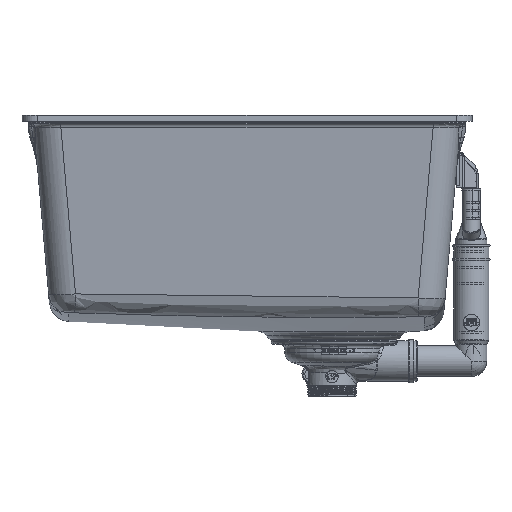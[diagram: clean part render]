
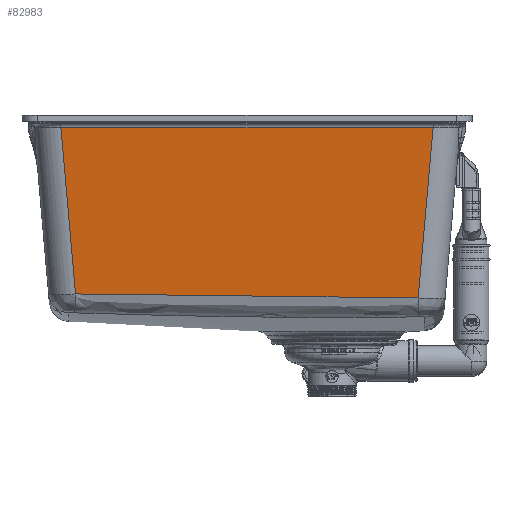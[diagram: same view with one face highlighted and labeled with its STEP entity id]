
A CAD part, front view. The second image highlights one B-rep face of the part: STEP entity #82983.
In plain terms, the highlighted planar face has unit normal (0, -0.996, -0.087).
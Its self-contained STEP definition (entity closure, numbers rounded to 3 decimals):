
#2538=B_SPLINE_CURVE_WITH_KNOTS('',3,(#117039,#117040,#117041,#117042,#117043),
 .UNSPECIFIED.,.F.,.F.,(4,1,4),(0.,14.136,32.985),
 .UNSPECIFIED.);
#5141=PLANE('',#88426);
#7865=FACE_OUTER_BOUND('',#12694,.T.);
#12694=EDGE_LOOP('',(#57249,#57250,#57251,#57252));
#17764=LINE('',#115388,#25331);
#17771=LINE('',#115989,#25338);
#17799=LINE('',#116918,#25366);
#25331=VECTOR('',#94825,10.);
#25338=VECTOR('',#94908,10.);
#25366=VECTOR('',#95082,10.);
#35360=VERTEX_POINT('',#115370);
#35363=VERTEX_POINT('',#115386);
#35396=VERTEX_POINT('',#115988);
#35452=VERTEX_POINT('',#116910);
#43740=EDGE_CURVE('',#35363,#35360,#17764,.T.);
#43802=EDGE_CURVE('',#35396,#35360,#17771,.T.);
#43909=EDGE_CURVE('',#35363,#35452,#17799,.T.);
#43917=EDGE_CURVE('',#35396,#35452,#2538,.T.);
#57249=ORIENTED_EDGE('',*,*,#43740,.F.);
#57250=ORIENTED_EDGE('',*,*,#43909,.T.);
#57251=ORIENTED_EDGE('',*,*,#43917,.F.);
#57252=ORIENTED_EDGE('',*,*,#43802,.T.);
#82983=ADVANCED_FACE('',(#7865),#5141,.T.);
#88426=AXIS2_PLACEMENT_3D('',#118050,#95204,#95205);
#94825=DIRECTION('',(1.,0.,0.));
#94908=DIRECTION('',(0.087,-0.087,0.992));
#95082=DIRECTION('',(0.087,0.087,-0.992));
#95204=DIRECTION('center_axis',(0.,-0.996,
-0.087));
#95205=DIRECTION('ref_axis',(-1.,0.,0.));
#115370=CARTESIAN_POINT('',(179.063,-364.964,-12.108));
#115386=CARTESIAN_POINT('',(-179.063,-364.964,-12.108));
#115388=CARTESIAN_POINT('',(100.,-364.964,-12.108));
#115988=CARTESIAN_POINT('',(164.728,-350.629,-175.948));
#115989=CARTESIAN_POINT('',(177.512,-363.413,-29.827));
#116910=CARTESIAN_POINT('',(-165.065,-350.967,-172.095));
#116918=CARTESIAN_POINT('',(-178.719,-364.62,-16.04));
#117039=CARTESIAN_POINT('Ctrl Pts',(164.728,-350.629,-175.948));
#117040=CARTESIAN_POINT('Ctrl Pts',(117.611,-350.578,-176.539));
#117041=CARTESIAN_POINT('Ctrl Pts',(7.655,-350.561,
-176.726));
#117042=CARTESIAN_POINT('Ctrl Pts',(-102.269,-350.793,
-174.079));
#117043=CARTESIAN_POINT('Ctrl Pts',(-165.065,-350.967,
-172.095));
#118050=CARTESIAN_POINT('Origin',(200.,-365.977,-0.523));
